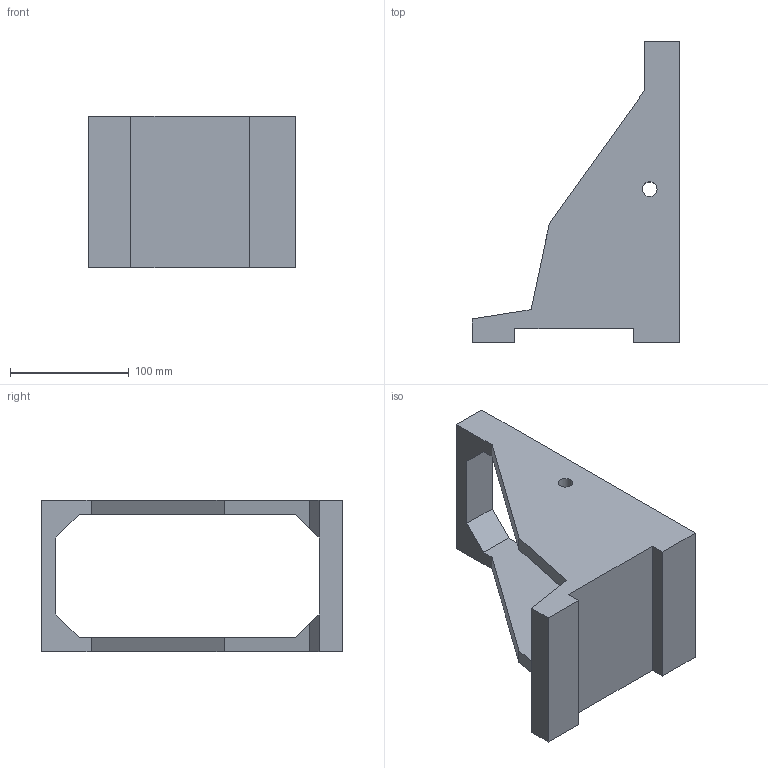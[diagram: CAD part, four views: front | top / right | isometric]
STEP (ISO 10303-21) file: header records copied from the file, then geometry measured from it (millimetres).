
FILE_DESCRIPTION(/* description */ ('STEP AP242','CAx-IF Rec.Pracs.---Representation and Presentation of Product Manufacturing Information (PMI)---4.0---2014-10-13','CAx-IF Rec.Pracs.---3D Tessellated Geometry---0.4---2014-09-14','2;1'),/* implementation_level */ '2;1');
FILE_NAME(/* name */ 'Assembly 1 - Part 1 (10)',/* time_stamp */ '2025-05-18T07:24:53Z',/* author */ (''),/* organization */ (''),/* preprocessor_version */ 'ST-DEVELOPER v20',/* originating_system */ 'ONSHAPE BY PTC INC, 1.198',/* authorisation */ ' ');
FILE_SCHEMA (('AP242_MANAGED_MODEL_BASED_3D_ENGINEERING_MIM_LF { 1 0 10303 442 1 1 4 }'));
Length unit declared in the file: metre
Products named in the file (1): Part 1
Bounding box: 175 x 254 x 128 mm (x, y, z)
Volume: 848134.9 mm3; surface area: 148046.7 mm2
Topology: 1 solids, 1 shells, 27 faces, 77 edges, 51 vertices
Faces by surface type: plane 25, cylinder 2
Full cylindrical faces by diameter (mm): 12.4 x2
Entity records: 882 total; most frequent: CARTESIAN_POINT 152, ORIENTED_EDGE 148, DIRECTION 134, EDGE_CURVE 74, LINE 70, VECTOR 70, VERTEX_POINT 50, EDGE_LOOP 34
